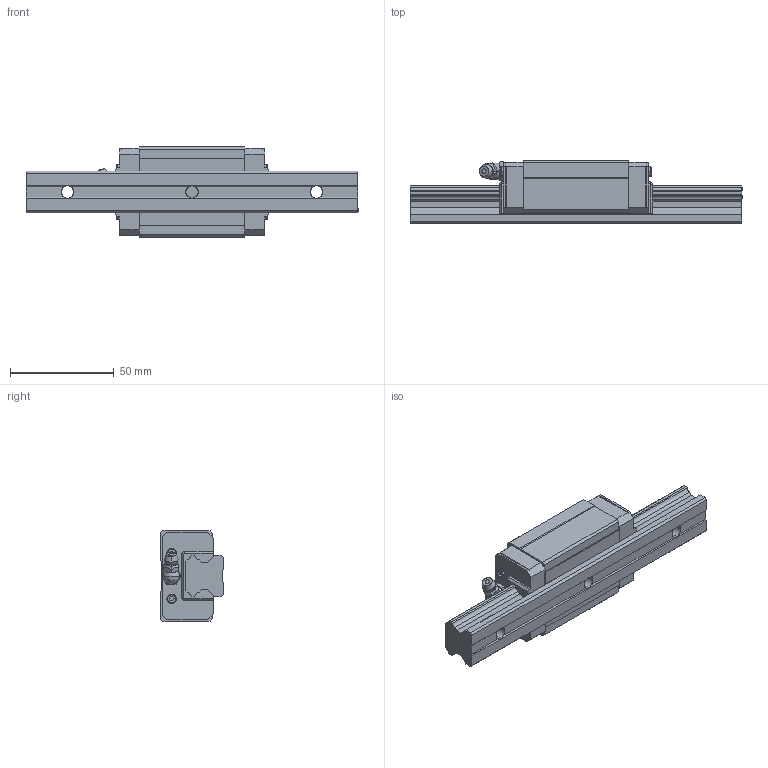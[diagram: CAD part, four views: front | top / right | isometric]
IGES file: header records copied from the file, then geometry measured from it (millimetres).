
Start section: SolidWorks IGES file using analytic representation for surfaces
Global section: file name: D:\Qsync\EOS Design B.V\Projecten\LM Systems\Models HSV\FINISHED\HSV20RSS.IGS; native system: SolidWorks 2016; preprocessor: SolidWorks 2016; author: EOS; date: 160314.144330; units: millimetre
Bounding box: 160 x 30 x 44 mm (x, y, z)
Surface area: 29168.6 mm2 (no closed solid volume)
Topology: 0 solids, 0 shells, 291 faces, 2758 edges, 2742 vertices
Faces by surface type: bspline 211, revolution 80
